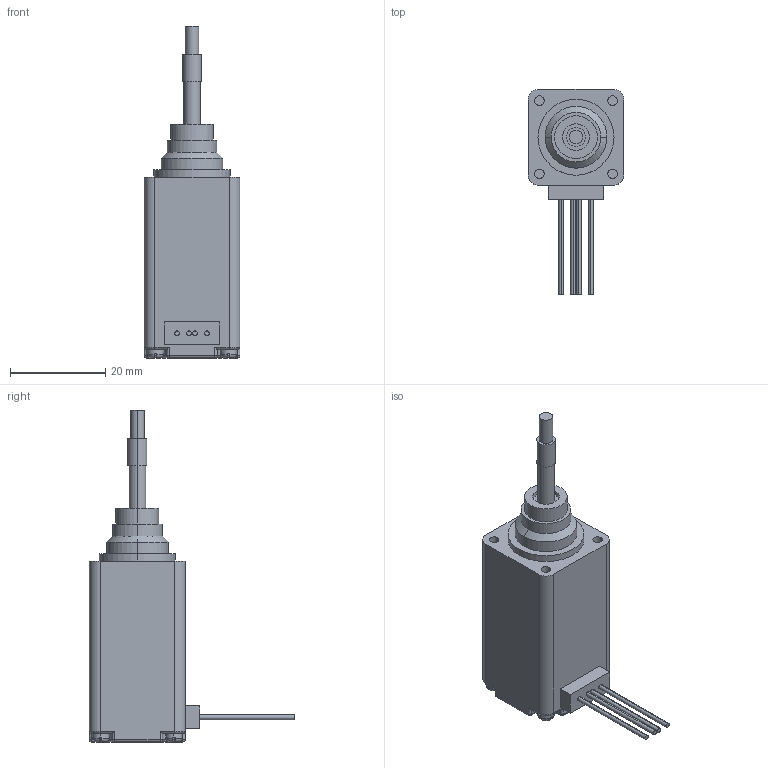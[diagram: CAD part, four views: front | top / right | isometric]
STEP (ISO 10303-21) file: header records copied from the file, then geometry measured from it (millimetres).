
FILE_DESCRIPTION (( 'STEP AP214' ), '1' );
FILE_NAME ('AMETEK-21H4AA-2.5-0.354-12.STEP', '2022-02-28T11:59:01', ( '' ), ( '' ), 'SwSTEP 2.0', 'SolidWorks 2021', '' );
FILE_SCHEMA (( 'AUTOMOTIVE_DESIGN' ));
Length unit declared in the file: inch
Products named in the file (1): AMETEK-21H4AA-2.5-0.354-12
Bounding box: 20.2 x 43.2 x 69.89 mm (x, y, z)
Volume: 16336.8 mm3; surface area: 5388.2 mm2
Topology: 2 solids, 2 shells, 206 faces, 502 edges, 312 vertices
Faces by surface type: plane 92, cylinder 80, torus 24, sphere 8, cone 2
Entity records: 8907 total; most frequent: CARTESIAN_POINT 1293, DIRECTION 1068, ORIENTED_EDGE 988, EDGE_CURVE 494, AXIS2_PLACEMENT_3D 407, VERTEX_POINT 312, VECTOR 254, LINE 254
